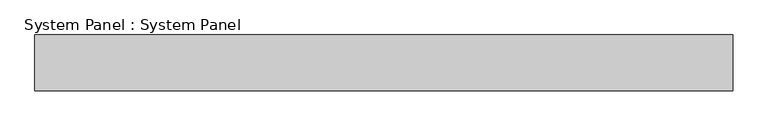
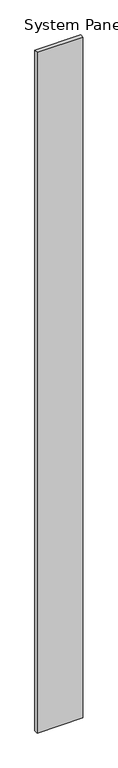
"""IFC4 building model written with IfcOpenShell, lengths in millimetres: plate geometry, System Panel : System Panel."""

import ifcopenshell
import ifcopenshell.guid

model = None  # the IFC model being written
_history = None  # IfcOwnerHistory: only IFC2X3 demands one
_inside = {}  # id of a spatial element -> (the spatial element, [elements in it])
_under = {}  # id of a project, library or spatial element -> (it, [spatial elements below it])
_declared = {}  # id of a project -> (the project, [libraries it declares])
_typed = {}  # id of a type object -> (the type object, [elements of that type])
_made_of = {}  # id of a material, layer set ... -> (it, [elements and type objects made of it])


def new_model(schema):
    """Start an empty IFC model of exactly this schema.

    Asked for "IFC4X3", IfcOpenShell would pick the latest addendum, in which some entities
    have other attributes; the version numbers below select the first issue.
    IFC2X3 requires an IfcOwnerHistory on every rooted entity: one is made here for all.
    """
    global model, _history
    if schema == "IFC4X3":
        model = ifcopenshell.file(schema_version=(4, 3, 0, 0))
    else:
        model = ifcopenshell.file(schema=schema)
    _inside.clear()
    _under.clear()
    _declared.clear()
    _typed.clear()
    _made_of.clear()
    _history = None
    if model.schema == "IFC2X3":
        org = make("IfcOrganization", Name="unknown")
        user = make(
            "IfcPersonAndOrganization",
            ThePerson=make("IfcPerson", FamilyName="unknown"),
            TheOrganization=org,
        )
        app = make(
            "IfcApplication",
            ApplicationDeveloper=org,
            Version="unknown",
            ApplicationFullName="unknown",
            ApplicationIdentifier="unknown",
        )
        _history = make(
            "IfcOwnerHistory",
            OwningUser=user,
            OwningApplication=app,
            ChangeAction="ADDED",
            CreationDate=0,
        )
    return model


def make(cls, **values):
    """One entity of the class cls with the attributes given. An attribute that is None is left unset."""
    return model.create_entity(
        cls, **{name: value for name, value in values.items() if value is not None}
    )


def rooted(cls, **values):
    """An entity with a GlobalId (a new one), such as an element, a storey or a relation."""
    return make(cls, GlobalId=ifcopenshell.guid.new(), OwnerHistory=_history, **values)


def si_unit(unit_type, name, prefix=None):
    """IfcSIUnit, for example si_unit("LENGTHUNIT", "METRE", prefix="MILLI")."""
    return make("IfcSIUnit", UnitType=unit_type, Prefix=prefix, Name=name)


def assignment(units):
    """IfcUnitAssignment: the units of a project."""
    return None if units is None else make("IfcUnitAssignment", Units=units)


def point(xyz):
    """IfcCartesianPoint."""
    return None if xyz is None else make("IfcCartesianPoint", Coordinates=xyz)


def direction(xyz):
    """IfcDirection."""
    return None if xyz is None else make("IfcDirection", DirectionRatios=xyz)


def frame(location, z_axis=None, x_axis=None):
    """IfcAxis2Placement3D, a coordinate frame: its origin and axes. An axis left out is left unset."""
    return make(
        "IfcAxis2Placement3D",
        Location=point(location),
        Axis=direction(z_axis),
        RefDirection=direction(x_axis),
    )


def origin():
    """The frame at (0, 0, 0) with its axes left unset."""
    return frame((0.0, 0.0, 0.0))


def origin_with_axes():
    """The frame at (0, 0, 0) with the z axis (0, 0, 1) and the x axis (1, 0, 0) written out."""
    return frame((0.0, 0.0, 0.0), z_axis=(0.0, 0.0, 1.0), x_axis=(1.0, 0.0, 0.0))


def place(relative_to, where):
    """IfcLocalPlacement: puts the frame where relative to a parent placement (None: the world)."""
    return make(
        "IfcLocalPlacement", PlacementRelTo=relative_to, RelativePlacement=where
    )


def context(
    kind, dimensions, precision=None, world=None, true_north=None, identifier=None
):
    """IfcGeometricRepresentationContext, for example the 3D "Model" context."""
    return make(
        "IfcGeometricRepresentationContext",
        ContextIdentifier=identifier,
        ContextType=kind,
        CoordinateSpaceDimension=dimensions,
        Precision=precision,
        WorldCoordinateSystem=world,
        TrueNorth=true_north,
    )


def project(units=None, contexts=None):
    """IfcProject with its units and contexts."""
    return rooted(
        "IfcProject",
        Name="project",
        RepresentationContexts=contexts,
        UnitsInContext=assignment(units),
    )


def spatial(cls, under=None, at=None, **own):
    """A site, building, storey or space (cls), placed at a placement, below another one or the project."""
    s = rooted(cls, ObjectPlacement=at, **own)
    if under is not None:
        _under.setdefault(under.id(), (under, []))[1].append(s)
    return s


def polyline(points):
    """IfcPolyline through the points."""
    return make("IfcPolyline", Points=[point(p) for p in points])


def outline(outer, holes=None, kind="AREA"):
    """IfcArbitraryClosedProfileDef: a profile drawn as a closed curve; with holes, ...WithVoids."""
    if holes is None:
        return make("IfcArbitraryClosedProfileDef", ProfileType=kind, OuterCurve=outer)
    return make(
        "IfcArbitraryProfileDefWithVoids",
        ProfileType=kind,
        OuterCurve=outer,
        InnerCurves=holes,
    )


def extrude(swept, where, along, depth):
    """IfcExtrudedAreaSolid: the profile swept, set in the frame where, extruded along a direction by depth."""
    return make(
        "IfcExtrudedAreaSolid",
        SweptArea=swept,
        Position=where,
        ExtrudedDirection=direction(along),
        Depth=depth,
    )


def shape(context_of_items, identifier, shape_type, items):
    """IfcShapeRepresentation: the items that make up one representation, for example the "Body"."""
    return make(
        "IfcShapeRepresentation",
        ContextOfItems=context_of_items,
        RepresentationIdentifier=identifier,
        RepresentationType=shape_type,
        Items=items,
    )


def source(mapping_origin, context_of_items, identifier, shape_type, items):
    """IfcRepresentationMap: a shape defined once, which mapped items show again and again."""
    return make(
        "IfcRepresentationMap",
        MappingOrigin=mapping_origin,
        MappedRepresentation=shape(context_of_items, identifier, shape_type, items),
    )


def transform(
    local_origin,
    x_axis=None,
    y_axis=None,
    z_axis=None,
    scale=None,
    scale2=None,
    scale3=None,
    uniform=True,
):
    """IfcCartesianTransformationOperator3D, or its non-uniform kind. x_axis, y_axis, z_axis: its Axis1, 2, 3."""
    if uniform:
        return make(
            "IfcCartesianTransformationOperator3D",
            Axis1=direction(x_axis),
            Axis2=direction(y_axis),
            LocalOrigin=point(local_origin),
            Scale=scale,
            Axis3=direction(z_axis),
        )
    return make(
        "IfcCartesianTransformationOperator3DnonUniform",
        Axis1=direction(x_axis),
        Axis2=direction(y_axis),
        LocalOrigin=point(local_origin),
        Scale=scale,
        Axis3=direction(z_axis),
        Scale2=scale2,
        Scale3=scale3,
    )


def mapped(mapping_source, mapping_target):
    """IfcMappedItem: shows the shape of a source again, moved by a transform."""
    return make(
        "IfcMappedItem", MappingSource=mapping_source, MappingTarget=mapping_target
    )


def made_of(thing, what):
    """Note that an element or type object is made of a material, layer set ...; save() writes the relation."""
    if what is not None:
        _made_of.setdefault(what.id(), (what, []))[1].append(thing)
    return thing


def element(
    cls,
    number,
    at=None,
    inside=None,
    cuts=None,
    type_object=None,
    material=None,
    context=None,
    identifier="Body",
    shape_type=None,
    held_by="IfcProductDefinitionShape",
    body=None,
    shapes=None,
    **own,
):
    """One element of the class cls, such as IfcWall. Its Tag is "e" and its number.

    at: its placement. inside: the storey or other place that contains it. cuts: it is an
    opening in that element (IfcRelVoidsElement). A single representation is given by context,
    identifier, shape_type and body (its items); several are given by shapes. held_by: the class
    of the entity that holds the representations. save() writes the other relations.
    """
    e = rooted(cls, Tag="e%d" % number, ObjectPlacement=at, **own)
    if body is not None:
        shapes = [shape(context, identifier, shape_type, body)]
    if shapes is not None:
        e.Representation = make(held_by, Representations=shapes)
    if inside is not None:
        _inside.setdefault(inside.id(), (inside, []))[1].append(e)
    if cuts is not None:
        rooted(
            "IfcRelVoidsElement", RelatingBuildingElement=cuts, RelatedOpeningElement=e
        )
    if type_object is not None:
        _typed.setdefault(type_object.id(), (type_object, []))[1].append(e)
    return made_of(e, material)


def aggregate(whole, parts):
    """IfcRelAggregates: a whole, such as a stair, and the parts it consists of."""
    return rooted("IfcRelAggregates", RelatingObject=whole, RelatedObjects=parts)


def save(model, path):
    """Write the relations noted so far, then the file.

    IfcRelAggregates (storeys below a building ...), IfcRelContainedInSpatialStructure (elements
    in a storey), IfcRelDefinesByType, IfcRelAssociatesMaterial and IfcRelDeclares: one each for
    every whole, place, type object, material and project.
    """
    for whole, parts in _under.values():
        aggregate(whole, parts)
    for where, things in _inside.values():
        rooted(
            "IfcRelContainedInSpatialStructure",
            RelatedElements=things,
            RelatingStructure=where,
        )
    for kind, things in _typed.values():
        rooted("IfcRelDefinesByType", RelatedObjects=things, RelatingType=kind)
    for what, things in _made_of.values():
        rooted("IfcRelAssociatesMaterial", RelatedObjects=things, RelatingMaterial=what)
    for by, libraries in _declared.values():
        rooted("IfcRelDeclares", RelatingContext=by, RelatedDefinitions=libraries)
    model.write(path)


def system_panel_system_panel_63a5b8b7(model_context):
    return source(origin(), model_context, "Body", "SweptSolid", [
        extrude(outline(polyline([(635.4994819, -50.8), (-635.4994819, -50.8), (-635.4994819, 50.8), (635.4994819, 50.8), (635.4994819, -50.8)])), origin_with_axes(), (0.0, 0.0, 1.0), 19964.4),
    ])


if __name__ == "__main__":
    model = new_model("IFC4")
    model_context = context("Model", 3, world=origin())
    ifc_project = project(units=[si_unit("LENGTHUNIT", "METRE", prefix="MILLI")], contexts=[model_context])
    site = spatial("IfcSite", under=ifc_project)
    building = spatial("IfcBuilding", under=site)
    placement = place(None, origin())
    system_panel_system_panel_shape = system_panel_system_panel_63a5b8b7(model_context)
    element("IfcPlate", 1, ObjectType="System Panel : System Panel", at=placement, inside=building, context=model_context, shape_type="MappedRepresentation", body=[
        mapped(system_panel_system_panel_shape, transform((0.0, 0.0, 0.0), x_axis=(1.0, 0.0, 0.0), y_axis=(0.0, 1.0, 0.0), z_axis=(0.0, 0.0, 1.0))),
    ])
    save(model, "model.ifc")
